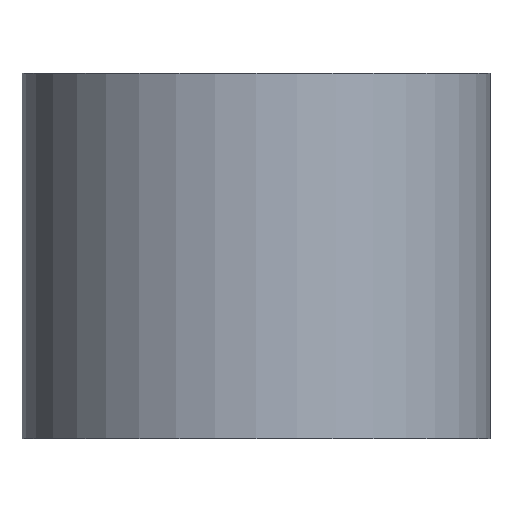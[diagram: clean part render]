
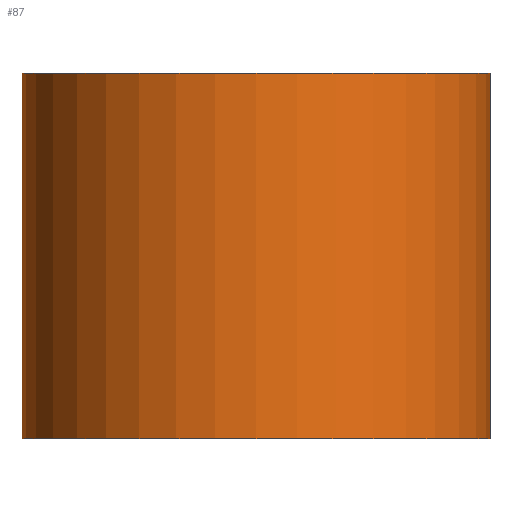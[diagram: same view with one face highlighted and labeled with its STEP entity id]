
A CAD part, front view. The second image highlights one B-rep face of the part: STEP entity #87.
In plain terms, the highlighted cylindrical face has radius 8 mm (diameter 16 mm), a partial arc.
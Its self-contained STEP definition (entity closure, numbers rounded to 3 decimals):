
#17=DIRECTION('',(0.,0.,-1.));
#18=VECTOR('',#17,12.5);
#19=CARTESIAN_POINT('',(-8.,0.,0.));
#20=LINE('',#19,#18);
#25=DIRECTION('',(0.,0.,-1.));
#26=VECTOR('',#25,12.5);
#27=CARTESIAN_POINT('',(8.,0.,0.));
#28=LINE('',#27,#26);
#40=CARTESIAN_POINT('',(0.,0.,-12.5));
#41=DIRECTION('',(0.,0.,1.));
#42=DIRECTION('',(-1.,0.,0.));
#43=AXIS2_PLACEMENT_3D('',#40,#41,#42);
#56=CARTESIAN_POINT('',(0.,0.,0.));
#57=DIRECTION('',(0.,0.,1.));
#58=DIRECTION('',(-1.,0.,0.));
#59=AXIS2_PLACEMENT_3D('',#56,#57,#58);
#64=CARTESIAN_POINT('',(-8.,0.,0.));
#65=CARTESIAN_POINT('',(-8.,0.,-12.5));
#66=VERTEX_POINT('',#64);
#67=VERTEX_POINT('',#65);
#68=CARTESIAN_POINT('',(8.,0.,-12.5));
#69=VERTEX_POINT('',#68);
#70=CARTESIAN_POINT('',(8.,0.,0.));
#71=VERTEX_POINT('',#70);
#72=CARTESIAN_POINT('',(0.,0.,-12.5));
#73=DIRECTION('',(0.,0.,-1.));
#74=DIRECTION('',(1.,0.,0.));
#75=AXIS2_PLACEMENT_3D('',#72,#73,#74);
#76=CYLINDRICAL_SURFACE('',#75,8.);
#78=ORIENTED_EDGE('',*,*,#77,.F.);
#80=ORIENTED_EDGE('',*,*,#79,.T.);
#82=ORIENTED_EDGE('',*,*,#81,.T.);
#84=ORIENTED_EDGE('',*,*,#83,.F.);
#85=EDGE_LOOP('',(#78,#80,#82,#84));
#86=FACE_OUTER_BOUND('',#85,.F.);
#44=CIRCLE('',#43,8.);
#60=CIRCLE('',#59,8.);
#77=EDGE_CURVE('',#66,#67,#20,.T.);
#79=EDGE_CURVE('',#66,#71,#60,.T.);
#81=EDGE_CURVE('',#71,#69,#28,.T.);
#83=EDGE_CURVE('',#67,#69,#44,.T.);
#87=ADVANCED_FACE('',(#86),#76,.T.);
